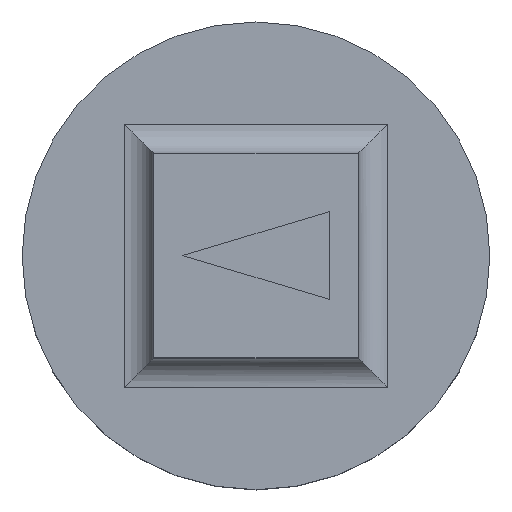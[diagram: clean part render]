
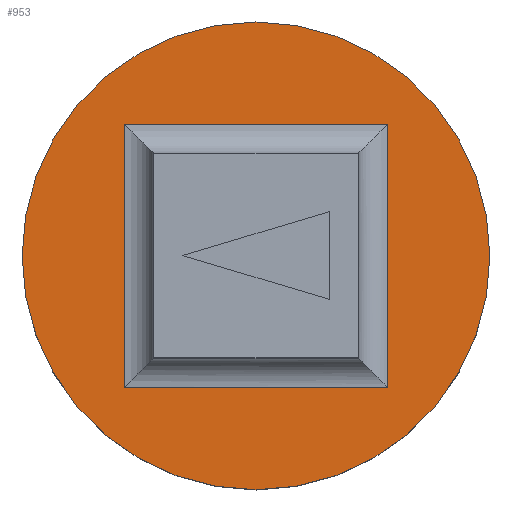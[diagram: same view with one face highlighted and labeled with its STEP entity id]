
A CAD part, top view. The second image highlights one B-rep face of the part: STEP entity #953.
In plain terms, the highlighted planar face has unit normal (0, 0, 1) as drawn and (0, -1, 0) by its records, which use the part's own axes.
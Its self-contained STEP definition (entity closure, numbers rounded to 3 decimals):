
#17 = EDGE_CURVE ( 'NONE', #1246, #297, #605, .T. ) ;
#32 = FACE_OUTER_BOUND ( 'NONE', #1338, .T. ) ;
#67 = VERTEX_POINT ( 'NONE', #1186 ) ;
#96 = FACE_BOUND ( 'NONE', #1105, .T. ) ;
#113 = CARTESIAN_POINT ( 'NONE',  ( 0., 0., 0. ) ) ;
#188 = CARTESIAN_POINT ( 'NONE',  ( 0., 0., 0. ) ) ;
#193 = PLANE ( 'NONE',  #882 ) ;
#215 = DIRECTION ( 'NONE',  ( 0., 1., 0. ) ) ;
#258 = LINE ( 'NONE', #318, #272 ) ;
#269 = CIRCLE ( 'NONE', #1028, 8. ) ;
#272 = VECTOR ( 'NONE', #336, 1000. ) ;
#276 = EDGE_CURVE ( 'NONE', #430, #689, #1081, .T. ) ;
#297 = VERTEX_POINT ( 'NONE', #948 ) ;
#318 = CARTESIAN_POINT ( 'NONE',  ( 0., 0., 4.5 ) ) ;
#336 = DIRECTION ( 'NONE',  ( -1., 0., 0. ) ) ;
#386 = CARTESIAN_POINT ( 'NONE',  ( 0., 0., 0. ) ) ;
#405 = AXIS2_PLACEMENT_3D ( 'NONE', #386, #752, #522 ) ;
#430 = VERTEX_POINT ( 'NONE', #698 ) ;
#431 = CARTESIAN_POINT ( 'NONE',  ( -4.5, 0., 0. ) ) ;
#452 = LINE ( 'NONE', #431, #495 ) ;
#471 = DIRECTION ( 'NONE',  ( 0., 0., -1. ) ) ;
#481 = CARTESIAN_POINT ( 'NONE',  ( -4.5, 0., 4.5 ) ) ;
#495 = VECTOR ( 'NONE', #471, 1000. ) ;
#503 = DIRECTION ( 'NONE',  ( 0., 0., 1. ) ) ;
#522 = DIRECTION ( 'NONE',  ( 0., 0., 1. ) ) ;
#605 = CIRCLE ( 'NONE', #405, 8. ) ;
#614 = EDGE_CURVE ( 'NONE', #297, #1246, #269, .T. ) ;
#667 = CARTESIAN_POINT ( 'NONE',  ( 0., 0., 8. ) ) ;
#683 = CARTESIAN_POINT ( 'NONE',  ( 4.5, 0., 0. ) ) ;
#686 = LINE ( 'NONE', #683, #846 ) ;
#689 = VERTEX_POINT ( 'NONE', #1053 ) ;
#698 = CARTESIAN_POINT ( 'NONE',  ( -4.5, 0., -4.5 ) ) ;
#752 = DIRECTION ( 'NONE',  ( 0., 1., 0. ) ) ;
#779 = CARTESIAN_POINT ( 'NONE',  ( 0., 0., -4.5 ) ) ;
#786 = DIRECTION ( 'NONE',  ( 1., 0., 0. ) ) ;
#846 = VECTOR ( 'NONE', #862, 1000. ) ;
#862 = DIRECTION ( 'NONE',  ( 0., 0., 1. ) ) ;
#882 = AXIS2_PLACEMENT_3D ( 'NONE', #188, #215, #503 ) ;
#884 = ORIENTED_EDGE ( 'NONE', *, *, #17, .F. ) ;
#902 = ORIENTED_EDGE ( 'NONE', *, *, #1108, .F. ) ;
#919 = ORIENTED_EDGE ( 'NONE', *, *, #276, .F. ) ;
#948 = CARTESIAN_POINT ( 'NONE',  ( 0., 0., -8. ) ) ;
#953 = ADVANCED_FACE ( 'NONE', ( #32, #96 ), #193, .F. ) ;
#1028 = AXIS2_PLACEMENT_3D ( 'NONE', #113, #1267, #1141 ) ;
#1033 = EDGE_CURVE ( 'NONE', #67, #1130, #258, .T. ) ;
#1053 = CARTESIAN_POINT ( 'NONE',  ( 4.5, 0., -4.5 ) ) ;
#1081 = LINE ( 'NONE', #779, #1113 ) ;
#1105 = EDGE_LOOP ( 'NONE', ( #1357, #1173, #919, #902 ) ) ;
#1108 = EDGE_CURVE ( 'NONE', #1130, #430, #452, .T. ) ;
#1113 = VECTOR ( 'NONE', #786, 1000. ) ;
#1130 = VERTEX_POINT ( 'NONE', #481 ) ;
#1141 = DIRECTION ( 'NONE',  ( 0., 0., 1. ) ) ;
#1173 = ORIENTED_EDGE ( 'NONE', *, *, #1260, .F. ) ;
#1186 = CARTESIAN_POINT ( 'NONE',  ( 4.5, 0., 4.5 ) ) ;
#1246 = VERTEX_POINT ( 'NONE', #667 ) ;
#1256 = ORIENTED_EDGE ( 'NONE', *, *, #614, .F. ) ;
#1260 = EDGE_CURVE ( 'NONE', #689, #67, #686, .T. ) ;
#1267 = DIRECTION ( 'NONE',  ( 0., 1., 0. ) ) ;
#1338 = EDGE_LOOP ( 'NONE', ( #884, #1256 ) ) ;
#1357 = ORIENTED_EDGE ( 'NONE', *, *, #1033, .F. ) ;
